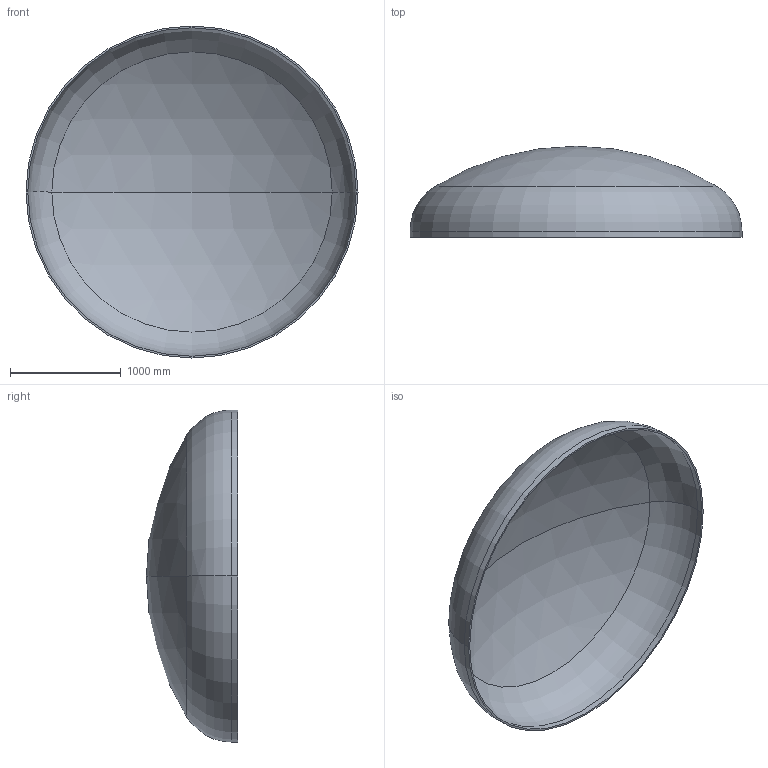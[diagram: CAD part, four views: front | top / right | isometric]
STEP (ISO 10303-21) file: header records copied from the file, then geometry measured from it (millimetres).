
FILE_DESCRIPTION (( 'STEP AP203' ), '1' );
FILE_NAME ('DIN 28013 Korbbogenform_-_Boden DIN 28013 - 3000 x 55 - I - s=16.step', '2016-07-01T17:31:51', ( '' ), ( '' ), 'SwSTEP 2.0', 'SolidWorks 2013', '' );
FILE_SCHEMA (( 'CONFIG_CONTROL_DESIGN' ));
Length unit declared in the file: millimetre
Products named in the file (1): DIN 28013 Korbbogenform_-_Boden DIN 28013 - 3000 x 55 - I - s=16
Bounding box: 3000 x 823.27 x 3000 mm (x, y, z)
Volume: 163660744.3 mm3; surface area: 20608113.4 mm2
Topology: 1 solids, 1 shells, 13 faces, 24 edges, 14 vertices
Faces by surface type: torus 4, cylinder 4, sphere 4, plane 1
Entity records: 407 total; most frequent: DIRECTION 72, CARTESIAN_POINT 52, ORIENTED_EDGE 48, AXIS2_PLACEMENT_3D 34, EDGE_CURVE 24, CIRCLE 20, EDGE_LOOP 14, VERTEX_POINT 14
